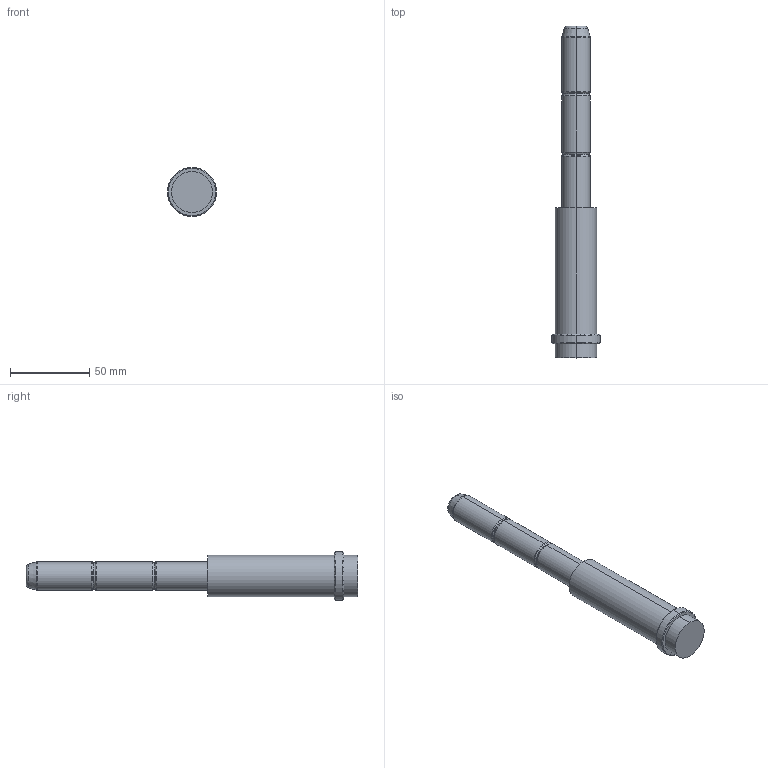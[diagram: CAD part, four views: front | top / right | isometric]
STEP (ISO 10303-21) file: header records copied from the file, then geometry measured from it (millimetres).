
FILE_DESCRIPTION (( 'STEP AP214' ), '1' );
FILE_NAME ('BR00 18x86x115.STEP', '2019-05-15T09:27:15', ( 'August' ), ( '' ), 'SwSTEP 2.0', 'SolidWorks 2018', '' );
FILE_SCHEMA (( 'AUTOMOTIVE_DESIGN' ));
Length unit declared in the file: millimetre
Products named in the file (1): BR00 18x86x115
Bounding box: 31 x 210 x 31 mm (x, y, z)
Volume: 80556.6 mm3; surface area: 15694.2 mm2
Topology: 1 solids, 1 shells, 43 faces, 84 edges, 46 vertices
Faces by surface type: torus 20, cylinder 12, cone 6, plane 5
Entity records: 1138 total; most frequent: DIRECTION 238, CARTESIAN_POINT 174, ORIENTED_EDGE 168, AXIS2_PLACEMENT_3D 110, EDGE_CURVE 84, CIRCLE 66, EDGE_LOOP 46, VERTEX_POINT 46
